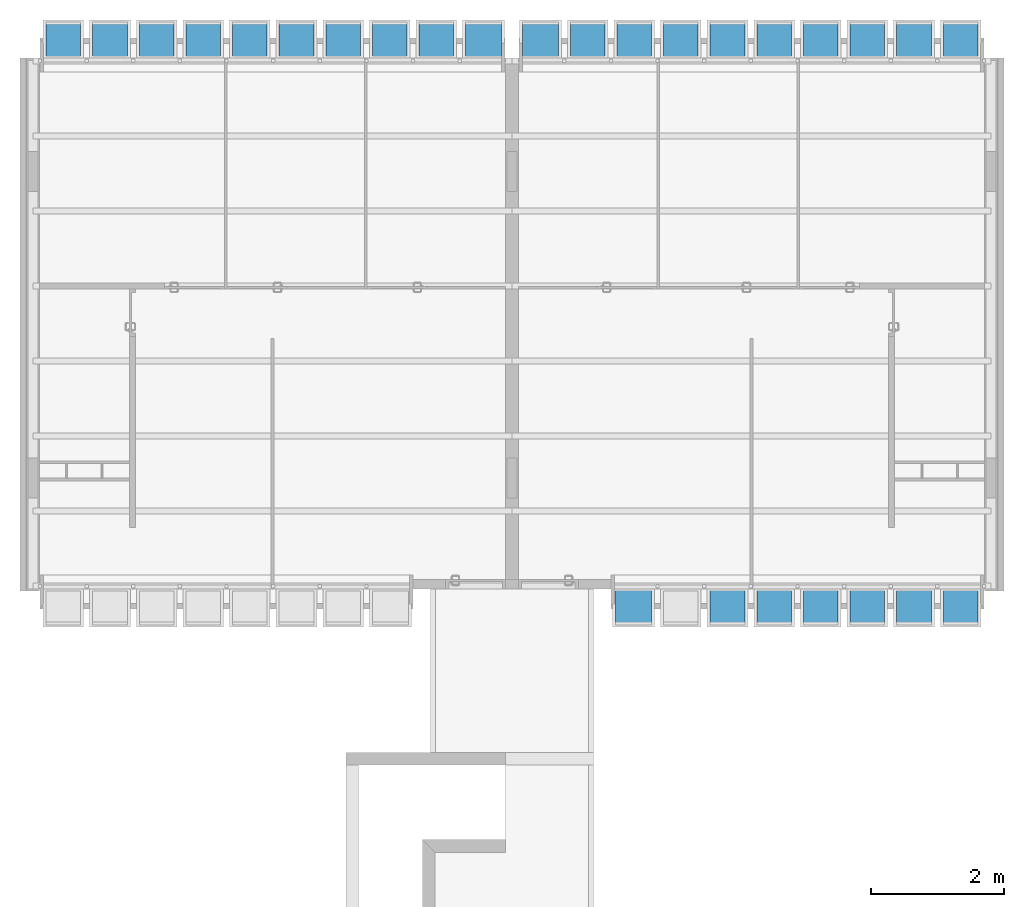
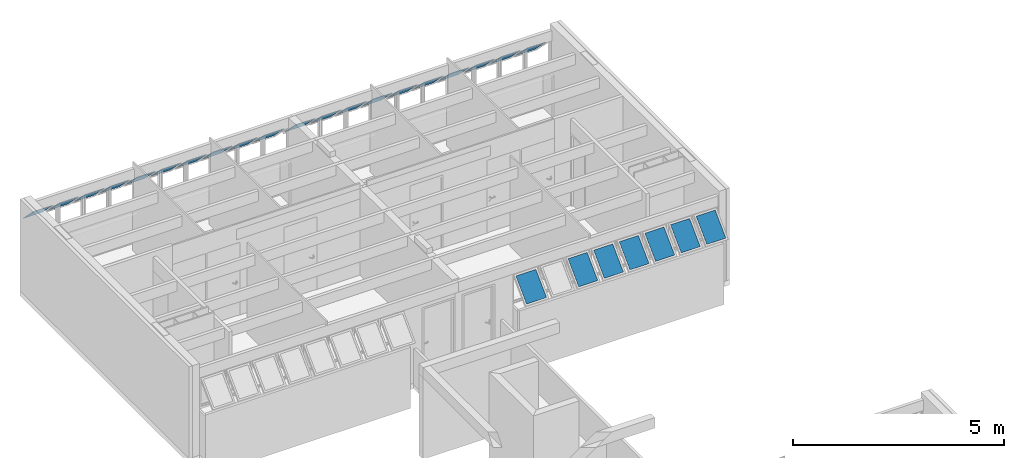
# One storey, part 37 of 37: 27 building element parts, 30 elements without a shape of their own.
"""IFC2X3 building model written with IfcOpenShell, lengths in millimetres."""

from ifc_helpers import new_model, entity, si_unit, converted_unit, derived_unit, money_unit, direction, frame, origin_with_axes, place, context, subcontext, project, spatial, faceted_brep, source, transform, mapped, material, type_object, element, aggregate, save


model = new_model("IFC2X3")

# Units and contexts
model_context = context("Model", 3, precision=0.01, world=origin_with_axes(), true_north=direction((0.0, 1.0)))
body_context = subcontext(model_context, "Body", "Model", "MODEL_VIEW")
ifc_project = project(units=[si_unit("LENGTHUNIT", "METRE", prefix="MILLI"), si_unit("AREAUNIT", "SQUARE_METRE"), si_unit("VOLUMEUNIT", "CUBIC_METRE"), converted_unit("PLANEANGLEUNIT", "DEGREE", entity("IfcPlaneAngleMeasure", 0.0174532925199), si_unit("PLANEANGLEUNIT", "RADIAN"), dimensions=[0, 0, 0, 0, 0, 0, 0]), money_unit("USD"), converted_unit("TIMEUNIT", "Year", entity("IfcTimeMeasure", 31556926.0), si_unit("TIMEUNIT", "SECOND"), dimensions=[0, 0, 1, 0, 0, 0, 0]), si_unit("MASSUNIT", "GRAM", prefix="KILO"), si_unit("THERMODYNAMICTEMPERATUREUNIT", "DEGREE_CELSIUS"), si_unit("LUMINOUSINTENSITYUNIT", "LUMEN"), si_unit("ENERGYUNIT", "JOULE", prefix="MEGA"), derived_unit("THERMALCONDUCTANCEUNIT", [(si_unit("POWERUNIT", "WATT"), 1), (si_unit("LENGTHUNIT", "METRE"), -1), (si_unit("THERMODYNAMICTEMPERATUREUNIT", "KELVIN"), -1)]), derived_unit("SPECIFICHEATCAPACITYUNIT", [(si_unit("ENERGYUNIT", "JOULE"), 1), (si_unit("MASSUNIT", "GRAM", prefix="KILO"), -1), (si_unit("THERMODYNAMICTEMPERATUREUNIT", "KELVIN"), -1)]), derived_unit("MASSDENSITYUNIT", [(si_unit("MASSUNIT", "GRAM", prefix="KILO"), 1), (si_unit("VOLUMEUNIT", "CUBIC_METRE"), -1)])], contexts=[model_context])

# Site, building, storey
site_placement = place(None, origin_with_axes())
site = spatial("IfcSite", under=ifc_project, at=site_placement, Name="Local", CompositionType="ELEMENT")
building_placement = place(site_placement, origin_with_axes())
building = spatial("IfcBuilding", under=site, at=building_placement, Name="Construção", CompositionType="ELEMENT")
storey_placement = place(building_placement, frame((0.0, 0.0, 5300.0), z_axis=(0.0, 0.0, 1.0), x_axis=(1.0, 0.0, 0.0)))
storey = spatial("IfcBuildingStorey", under=building, at=storey_placement, Name="Terceiro Pavimento", CompositionType="ELEMENT", Elevation=5300.0)

# Window, plates, building element parts
window_style = type_object("IfcWindowStyle", Name="Tipo de Parede Cortina", ConstructionType="NOTDEFINED", OperationType="NOTDEFINED", ParameterTakesPrecedence=False, Sizeable=False)
window_1_placement = place(storey_placement, frame((8520.0, 25844.9790225, 1355.02054151), z_axis=(0.0, 0.0, 1.0), x_axis=(1.0, 0.0, 0.0)))
window_1 = element("IfcWindow", 1, at=window_1_placement, inside=storey, type_object=window_style, Name="APTO12-JANELA-001")
plate_type_1 = type_object("IfcPlateType", Name="Painel Principal 690 x 845 x 20", PredefinedType="CURTAIN_PANEL")
plate_1_placement = place(window_1_placement, frame((0.0, 0.0, 422.499945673), z_axis=(0.0, 0.0, 1.0), x_axis=(1.0, 0.0, 0.0)))
plate_1 = element("IfcPlate", 2, at=plate_1_placement, type_object=plate_type_1, Name="APTO12-Painel-Prin-030")
ifc_material = material(Name="Vidro")
shared_shape_1 = source(origin_with_axes(), body_context, "Body", "Brep", [
    faceted_brep([(90.0000036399, 272.749572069, 537.551834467), (609.999997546, 272.749572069, 537.551834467), (609.999997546, 284.063280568, 548.865542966), (90.0000036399, 284.063280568, 548.865542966), (90.0000036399, 778.330843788, 31.9705627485), (609.999997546, 778.330843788, 31.9705627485), (609.999997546, 789.644552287, 43.2842712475), (90.0000036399, 789.644552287, 43.2842712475)], [[[0, 1, 2, 3]], [[0, 4, 5, 1]], [[1, 5, 6, 2]], [[3, 2, 6, 7]], [[4, 0, 3, 7]], [[5, 4, 7, 6]]]),
])
building_element_part_1_placement = place(plate_1_placement, origin_with_axes())
building_element_part_1 = element("IfcBuildingElementPart", 3, at=building_element_part_1_placement, material=ifc_material, Name="Vidro", context=body_context, shape_type="MappedRepresentation", body=[
    mapped(shared_shape_1, transform((350.0, 0.0, -422.499945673), x_axis=(-1.0, 0.0, 0.0), y_axis=(0.0, 0.0, 1.0), z_axis=(0.0, 1.0, 0.0))),
])
aggregate(plate_1, [building_element_part_1])
plate_2_placement = place(window_1_placement, frame((700.0, 0.0, 422.499945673), z_axis=(0.0, 0.0, 1.0), x_axis=(1.0, 0.0, 0.0)))
plate_2 = element("IfcPlate", 4, at=plate_2_placement, type_object=plate_type_1, Name="APTO12-Painel-Prin-020")
building_element_part_2_placement = place(plate_2_placement, origin_with_axes())
building_element_part_2 = element("IfcBuildingElementPart", 5, at=building_element_part_2_placement, material=ifc_material, Name="Vidro", context=body_context, shape_type="MappedRepresentation", body=[
    mapped(shared_shape_1, transform((350.0, 0.0, -422.499945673), x_axis=(-1.0, 0.0, 0.0), y_axis=(0.0, 0.0, 1.0), z_axis=(0.0, 1.0, 0.0))),
])
aggregate(plate_2, [building_element_part_2])
plate_3_placement = place(window_1_placement, frame((1400.0, 0.0, 422.499945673), z_axis=(0.0, 0.0, 1.0), x_axis=(1.0, 0.0, 0.0)))
plate_3 = element("IfcPlate", 6, at=plate_3_placement, type_object=plate_type_1, Name="APTO12-Painel-Prin-029")
building_element_part_3_placement = place(plate_3_placement, origin_with_axes())
building_element_part_3 = element("IfcBuildingElementPart", 7, at=building_element_part_3_placement, material=ifc_material, Name="Vidro", context=body_context, shape_type="MappedRepresentation", body=[
    mapped(shared_shape_1, transform((350.0, 0.0, -422.499945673), x_axis=(-1.0, 0.0, 0.0), y_axis=(0.0, 0.0, 1.0), z_axis=(0.0, 1.0, 0.0))),
])
aggregate(plate_3, [building_element_part_3])
plate_4_placement = place(window_1_placement, frame((3500.0, 0.0, 422.499945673), z_axis=(0.0, 0.0, 1.0), x_axis=(1.0, 0.0, 0.0)))
plate_4 = element("IfcPlate", 8, at=plate_4_placement, type_object=plate_type_1, Name="APTO12-Painel-Prin-013")
building_element_part_4_placement = place(plate_4_placement, origin_with_axes())
building_element_part_4 = element("IfcBuildingElementPart", 9, at=building_element_part_4_placement, material=ifc_material, Name="Vidro", context=body_context, shape_type="MappedRepresentation", body=[
    mapped(shared_shape_1, transform((350.0, 0.0, -422.499945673), x_axis=(-1.0, 0.0, 0.0), y_axis=(0.0, 0.0, 1.0), z_axis=(0.0, 1.0, 0.0))),
])
aggregate(plate_4, [building_element_part_4])
plate_type_2 = type_object("IfcPlateType", Name="Painel Principal 685 x 845 x 20", PredefinedType="CURTAIN_PANEL")
plate_5_placement = place(window_1_placement, frame((-695.000037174, 0.0, 422.499953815), z_axis=(0.0, 0.0, 1.0), x_axis=(1.0, 0.0, 0.0)))
plate_5 = element("IfcPlate", 10, at=plate_5_placement, type_object=plate_type_2, Name="APTO12-Painel-Prin-031")
shared_shape_2 = source(origin_with_axes(), body_context, "Body", "Brep", [
    faceted_brep([(90.0000046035, 272.749581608, 537.551857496), (625.000079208, 272.749581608, 537.551857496), (625.000079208, 284.063290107, 548.865565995), (90.0000046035, 284.063290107, 548.865565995), (90.0000046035, 778.330876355, 31.9705627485), (625.000079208, 778.330876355, 31.9705627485), (625.000079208, 789.644584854, 43.2842712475), (90.0000046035, 789.644584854, 43.2842712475)], [[[0, 1, 2, 3]], [[0, 4, 5, 1]], [[1, 5, 6, 2]], [[3, 2, 6, 7]], [[4, 0, 3, 7]], [[5, 4, 7, 6]]]),
])
building_element_part_5_placement = place(plate_5_placement, origin_with_axes())
building_element_part_5 = element("IfcBuildingElementPart", 11, at=building_element_part_5_placement, material=ifc_material, Name="Vidro", context=body_context, shape_type="MappedRepresentation", body=[
    mapped(shared_shape_2, transform((345.000037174, 0.0, -422.499953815), x_axis=(-1.0, 0.0, 0.0), y_axis=(0.0, 0.0, 1.0), z_axis=(0.0, 1.0, 0.0))),
])
aggregate(plate_5, [building_element_part_5])
plate_6_placement = place(window_1_placement, frame((5600.0, 0.0, 422.499945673), z_axis=(0.0, 0.0, 1.0), x_axis=(1.0, 0.0, 0.0)))
plate_6 = element("IfcPlate", 12, at=plate_6_placement, type_object=plate_type_1, Name="APTO12-Painel-Prin-013")
shared_shape_3 = source(origin_with_axes(), body_context, "Body", "Brep", [
    faceted_brep([(90.0000036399, 272.749572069, 537.551834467), (609.999997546, 272.749572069, 537.551834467), (609.999997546, 284.063280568, 548.865542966), (90.0000036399, 284.063280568, 548.865542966), (90.0000036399, 778.330843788, 31.9705627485), (609.999997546, 778.330843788, 31.9705627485), (609.999997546, 789.644552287, 43.2842712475), (90.0000036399, 789.644552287, 43.2842712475)], [[[0, 1, 2, 3]], [[0, 4, 5, 1]], [[1, 5, 6, 2]], [[3, 2, 6, 7]], [[4, 0, 3, 7]], [[5, 4, 7, 6]]]),
])
building_element_part_6_placement = place(plate_6_placement, origin_with_axes())
building_element_part_6 = element("IfcBuildingElementPart", 13, at=building_element_part_6_placement, material=ifc_material, Name="Vidro", context=body_context, shape_type="MappedRepresentation", body=[
    mapped(shared_shape_3, transform((350.0, 0.0, -422.499945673), x_axis=(-1.0, 0.0, 0.0), y_axis=(0.0, 0.0, 1.0), z_axis=(0.0, 1.0, 0.0))),
])
aggregate(plate_6, [building_element_part_6])
plate_7_placement = place(window_1_placement, frame((4900.0, 0.0, 422.499945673), z_axis=(0.0, 0.0, 1.0), x_axis=(1.0, 0.0, 0.0)))
plate_7 = element("IfcPlate", 14, at=plate_7_placement, type_object=plate_type_1, Name="APTO12-Painel-Prin-013")
building_element_part_7_placement = place(plate_7_placement, origin_with_axes())
building_element_part_7 = element("IfcBuildingElementPart", 15, at=building_element_part_7_placement, material=ifc_material, Name="Vidro", context=body_context, shape_type="MappedRepresentation", body=[
    mapped(shared_shape_3, transform((350.0, 0.0, -422.499945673), x_axis=(-1.0, 0.0, 0.0), y_axis=(0.0, 0.0, 1.0), z_axis=(0.0, 1.0, 0.0))),
])
aggregate(plate_7, [building_element_part_7])
plate_8_placement = place(window_1_placement, frame((2100.0, 0.0, 422.499945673), z_axis=(0.0, 0.0, 1.0), x_axis=(1.0, 0.0, 0.0)))
plate_8 = element("IfcPlate", 16, at=plate_8_placement, type_object=plate_type_1, Name="APTO12-Painel-Prin-025")
building_element_part_8_placement = place(plate_8_placement, origin_with_axes())
building_element_part_8 = element("IfcBuildingElementPart", 17, at=building_element_part_8_placement, material=ifc_material, Name="Vidro", context=body_context, shape_type="MappedRepresentation", body=[
    mapped(shared_shape_3, transform((350.0, 0.0, -422.499945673), x_axis=(-1.0, 0.0, 0.0), y_axis=(0.0, 0.0, 1.0), z_axis=(0.0, 1.0, 0.0))),
])
aggregate(plate_8, [building_element_part_8])
plate_9_placement = place(window_1_placement, frame((2800.0, 0.0, 422.499945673), z_axis=(0.0, 0.0, 1.0), x_axis=(1.0, 0.0, 0.0)))
plate_9 = element("IfcPlate", 18, at=plate_9_placement, type_object=plate_type_1, Name="APTO12-Painel-Prin-013")
shared_shape_4 = source(origin_with_axes(), body_context, "Body", "Brep", [
    faceted_brep([(90.0000036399, 272.749572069, 537.551834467), (609.999997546, 272.749572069, 537.551834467), (609.999997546, 284.063280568, 548.865542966), (90.0000036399, 284.063280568, 548.865542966), (90.0000036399, 778.330843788, 31.9705627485), (609.999997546, 778.330843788, 31.9705627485), (609.999997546, 789.644552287, 43.2842712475), (90.0000036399, 789.644552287, 43.2842712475)], [[[0, 1, 2, 3]], [[0, 4, 5, 1]], [[1, 5, 6, 2]], [[3, 2, 6, 7]], [[4, 0, 3, 7]], [[5, 4, 7, 6]]]),
])
building_element_part_9_placement = place(plate_9_placement, origin_with_axes())
building_element_part_9 = element("IfcBuildingElementPart", 19, at=building_element_part_9_placement, material=ifc_material, Name="Vidro", context=body_context, shape_type="MappedRepresentation", body=[
    mapped(shared_shape_4, transform((350.0, 0.0, -422.499945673), x_axis=(-1.0, 0.0, 0.0), y_axis=(0.0, 0.0, 1.0), z_axis=(0.0, 1.0, 0.0))),
])
aggregate(plate_9, [building_element_part_9])
plate_10_placement = place(window_1_placement, frame((4200.0, 0.0, 422.499945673), z_axis=(0.0, 0.0, 1.0), x_axis=(1.0, 0.0, 0.0)))
plate_10 = element("IfcPlate", 20, at=plate_10_placement, type_object=plate_type_1, Name="APTO12-Painel-Prin-013")
aggregate(window_1, [plate_1, plate_5, plate_6, plate_7, plate_9, plate_8, plate_2, plate_10, plate_3, plate_4])
building_element_part_10_placement = place(plate_10_placement, origin_with_axes())
building_element_part_10 = element("IfcBuildingElementPart", 21, at=building_element_part_10_placement, material=ifc_material, Name="Vidro", context=body_context, shape_type="MappedRepresentation", body=[
    mapped(shared_shape_4, transform((350.0, 0.0, -422.499945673), x_axis=(-1.0, 0.0, 0.0), y_axis=(0.0, 0.0, 1.0), z_axis=(0.0, 1.0, 0.0))),
])
aggregate(plate_10, [building_element_part_10])

window_2_placement = place(storey_placement, frame((6250.0, 25844.9790225, 1355.02054151), z_axis=(0.0, 0.0, 1.0), x_axis=(1.0, 0.0, 0.0)))
window_2 = element("IfcWindow", 22, at=window_2_placement, inside=storey, type_object=window_style, Name="APTO11-JANELA-001")
plate_11_placement = place(window_2_placement, frame((0.0, 0.0, 422.499945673), z_axis=(0.0, 0.0, 1.0), x_axis=(-1.0, 0.0, 0.0)))
plate_11 = element("IfcPlate", 23, at=plate_11_placement, type_object=plate_type_1, Name="APTO11-Painel-Prin-030")
shared_shape_5 = source(origin_with_axes(), body_context, "Body", "Brep", [
    faceted_brep([(-90.0000036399, 272.749572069, 537.551834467), (-90.0000036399, 284.063280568, 548.865542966), (-609.999997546, 284.063280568, 548.865542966), (-609.999997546, 272.749572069, 537.551834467), (-90.0000036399, 778.330843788, 31.9705627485), (-90.0000036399, 789.644552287, 43.2842712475), (-609.999997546, 789.644552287, 43.2842712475), (-609.999997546, 778.330843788, 31.9705627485)], [[[0, 1, 2, 3]], [[4, 5, 1, 0]], [[1, 5, 6, 2]], [[3, 2, 6, 7]], [[0, 3, 7, 4]], [[7, 6, 5, 4]]]),
])
building_element_part_11_placement = place(plate_11_placement, origin_with_axes())
building_element_part_11 = element("IfcBuildingElementPart", 24, at=building_element_part_11_placement, material=ifc_material, Name="Vidro", context=body_context, shape_type="MappedRepresentation", body=[
    mapped(shared_shape_5, transform((350.0, 0.0, -422.499945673), x_axis=(1.0, 0.0, 0.0), y_axis=(0.0, 0.0, 1.0), z_axis=(0.0, -1.0, 0.0))),
])
aggregate(plate_11, [building_element_part_11])
plate_12_placement = place(window_2_placement, frame((-700.0, 0.0, 422.499945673), z_axis=(0.0, 0.0, 1.0), x_axis=(-1.0, 0.0, 0.0)))
plate_12 = element("IfcPlate", 25, at=plate_12_placement, type_object=plate_type_1, Name="APTO11-Painel-Prin-020")
building_element_part_12_placement = place(plate_12_placement, origin_with_axes())
building_element_part_12 = element("IfcBuildingElementPart", 26, at=building_element_part_12_placement, material=ifc_material, Name="Vidro", context=body_context, shape_type="MappedRepresentation", body=[
    mapped(shared_shape_5, transform((350.0, 0.0, -422.499945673), x_axis=(1.0, 0.0, 0.0), y_axis=(0.0, 0.0, 1.0), z_axis=(0.0, -1.0, 0.0))),
])
aggregate(plate_12, [building_element_part_12])
plate_13_placement = place(window_2_placement, frame((-1400.0, 0.0, 422.499945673), z_axis=(0.0, 0.0, 1.0), x_axis=(-1.0, 0.0, 0.0)))
plate_13 = element("IfcPlate", 27, at=plate_13_placement, type_object=plate_type_1, Name="APTO11-Painel-Prin-029")
building_element_part_13_placement = place(plate_13_placement, origin_with_axes())
building_element_part_13 = element("IfcBuildingElementPart", 28, at=building_element_part_13_placement, material=ifc_material, Name="Vidro", context=body_context, shape_type="MappedRepresentation", body=[
    mapped(shared_shape_5, transform((350.0, 0.0, -422.499945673), x_axis=(1.0, 0.0, 0.0), y_axis=(0.0, 0.0, 1.0), z_axis=(0.0, -1.0, 0.0))),
])
aggregate(plate_13, [building_element_part_13])
plate_14_placement = place(window_2_placement, frame((-3500.0, 0.0, 422.499945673), z_axis=(0.0, 0.0, 1.0), x_axis=(-1.0, 0.0, 0.0)))
plate_14 = element("IfcPlate", 29, at=plate_14_placement, type_object=plate_type_1, Name="APTO11-Painel-Prin-013")
building_element_part_14_placement = place(plate_14_placement, origin_with_axes())
building_element_part_14 = element("IfcBuildingElementPart", 30, at=building_element_part_14_placement, material=ifc_material, Name="Vidro", context=body_context, shape_type="MappedRepresentation", body=[
    mapped(shared_shape_5, transform((350.0, 0.0, -422.499945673), x_axis=(1.0, 0.0, 0.0), y_axis=(0.0, 0.0, 1.0), z_axis=(0.0, -1.0, 0.0))),
])
aggregate(plate_14, [building_element_part_14])

# Window, plate, building element part
window_3_placement = place(storey_placement, frame((12020.0, 17910.0, 1355.00007107), z_axis=(0.0, 0.0, 1.0), x_axis=(1.0, 0.0, 0.0)))
window_3 = element("IfcWindow", 31, at=window_3_placement, inside=storey, type_object=window_style, Name="APTO12-JANELA-000")
plate_15_placement = place(window_3_placement, frame((0.0, 0.0, 422.499964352), z_axis=(0.0, 0.0, 1.0), x_axis=(1.0, 0.0, 0.0)))
plate_15 = element("IfcPlate", 32, at=plate_15_placement, type_object=plate_type_1, Name="APTO12-Painel-Prin-013")
building_element_part_15_placement = place(plate_15_placement, origin_with_axes())
building_element_part_15 = element("IfcBuildingElementPart", 33, at=building_element_part_15_placement, material=ifc_material, Name="Vidro", context=body_context, shape_type="MappedRepresentation", body=[
    mapped(shared_shape_5, transform((350.0, 0.0, -422.499964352), x_axis=(1.0, 0.0, 0.0), y_axis=(0.0, 0.0, 1.0), z_axis=(0.0, -1.0, 0.0))),
])
aggregate(plate_15, [building_element_part_15])

# Plate, building element part
plate_16_placement = place(window_2_placement, frame((-5600.0, 0.0, 422.499945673), z_axis=(0.0, 0.0, 1.0), x_axis=(-1.0, 0.0, 0.0)))
plate_16 = element("IfcPlate", 34, at=plate_16_placement, type_object=plate_type_1, Name="APTO11-Painel-Prin-013")
shared_shape_6 = source(origin_with_axes(), body_context, "Body", "Brep", [
    faceted_brep([(-90.0000036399, 272.749572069, 537.551834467), (-90.0000036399, 284.063280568, 548.865542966), (-609.999997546, 284.063280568, 548.865542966), (-609.999997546, 272.749572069, 537.551834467), (-90.0000036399, 778.330843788, 31.9705627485), (-90.0000036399, 789.644552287, 43.2842712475), (-609.999997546, 789.644552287, 43.2842712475), (-609.999997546, 778.330843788, 31.9705627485)], [[[0, 1, 2, 3]], [[4, 5, 1, 0]], [[1, 5, 6, 2]], [[3, 2, 6, 7]], [[0, 3, 7, 4]], [[7, 6, 5, 4]]]),
])
building_element_part_16_placement = place(plate_16_placement, origin_with_axes())
building_element_part_16 = element("IfcBuildingElementPart", 35, at=building_element_part_16_placement, material=ifc_material, Name="Vidro", context=body_context, shape_type="MappedRepresentation", body=[
    mapped(shared_shape_6, transform((350.0, 0.0, -422.499945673), x_axis=(1.0, 0.0, 0.0), y_axis=(0.0, 0.0, 1.0), z_axis=(0.0, -1.0, 0.0))),
])
aggregate(plate_16, [building_element_part_16])

plate_17_placement = place(window_2_placement, frame((-4900.0, 0.0, 422.499945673), z_axis=(0.0, 0.0, 1.0), x_axis=(-1.0, 0.0, 0.0)))
plate_17 = element("IfcPlate", 36, at=plate_17_placement, type_object=plate_type_1, Name="APTO11-Painel-Prin-013")
building_element_part_17_placement = place(plate_17_placement, origin_with_axes())
building_element_part_17 = element("IfcBuildingElementPart", 37, at=building_element_part_17_placement, material=ifc_material, Name="Vidro", context=body_context, shape_type="MappedRepresentation", body=[
    mapped(shared_shape_6, transform((350.0, 0.0, -422.499945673), x_axis=(1.0, 0.0, 0.0), y_axis=(0.0, 0.0, 1.0), z_axis=(0.0, -1.0, 0.0))),
])
aggregate(plate_17, [building_element_part_17])

plate_18_placement = place(window_2_placement, frame((-2100.0, 0.0, 422.499945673), z_axis=(0.0, 0.0, 1.0), x_axis=(-1.0, 0.0, 0.0)))
plate_18 = element("IfcPlate", 38, at=plate_18_placement, type_object=plate_type_1, Name="APTO11-Painel-Prin-025")
building_element_part_18_placement = place(plate_18_placement, origin_with_axes())
building_element_part_18 = element("IfcBuildingElementPart", 39, at=building_element_part_18_placement, material=ifc_material, Name="Vidro", context=body_context, shape_type="MappedRepresentation", body=[
    mapped(shared_shape_6, transform((350.0, 0.0, -422.499945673), x_axis=(1.0, 0.0, 0.0), y_axis=(0.0, 0.0, 1.0), z_axis=(0.0, -1.0, 0.0))),
])
aggregate(plate_18, [building_element_part_18])

plate_19_placement = place(window_3_placement, frame((2100.0, 0.0, 422.499998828), z_axis=(0.0, 0.0, 1.0), x_axis=(1.0, 0.0, 0.0)))
plate_19 = element("IfcPlate", 40, at=plate_19_placement, type_object=plate_type_1, Name="APTO12-Painel-Prin-013")
building_element_part_19_placement = place(plate_19_placement, origin_with_axes())
building_element_part_19 = element("IfcBuildingElementPart", 41, at=building_element_part_19_placement, material=ifc_material, Name="Vidro", context=body_context, shape_type="MappedRepresentation", body=[
    mapped(shared_shape_6, transform((350.0, 0.0, -422.499998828), x_axis=(1.0, 0.0, 0.0), y_axis=(0.0, 0.0, 1.0), z_axis=(0.0, -1.0, 0.0))),
])
aggregate(plate_19, [building_element_part_19])

plate_20_placement = place(window_3_placement, frame((1400.0, 0.0, 422.499964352), z_axis=(0.0, 0.0, 1.0), x_axis=(1.0, 0.0, 0.0)))
plate_20 = element("IfcPlate", 42, at=plate_20_placement, type_object=plate_type_1, Name="APTO12-Painel-Prin-013")
building_element_part_20_placement = place(plate_20_placement, origin_with_axes())
building_element_part_20 = element("IfcBuildingElementPart", 43, at=building_element_part_20_placement, material=ifc_material, Name="Vidro", context=body_context, shape_type="MappedRepresentation", body=[
    mapped(shared_shape_6, transform((350.0, 0.0, -422.499964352), x_axis=(1.0, 0.0, 0.0), y_axis=(0.0, 0.0, 1.0), z_axis=(0.0, -1.0, 0.0))),
])
aggregate(plate_20, [building_element_part_20])

plate_21_placement = place(window_3_placement, frame((-1400.0, 0.0, 422.499964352), z_axis=(0.0, 0.0, 1.0), x_axis=(1.0, 0.0, 0.0)))
plate_21 = element("IfcPlate", 44, at=plate_21_placement, type_object=plate_type_1, Name="APTO12-Painel-Prin-025")
building_element_part_21_placement = place(plate_21_placement, origin_with_axes())
building_element_part_21 = element("IfcBuildingElementPart", 45, at=building_element_part_21_placement, material=ifc_material, Name="Vidro", context=body_context, shape_type="MappedRepresentation", body=[
    mapped(shared_shape_6, transform((350.0, 0.0, -422.499964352), x_axis=(1.0, 0.0, 0.0), y_axis=(0.0, 0.0, 1.0), z_axis=(0.0, -1.0, 0.0))),
])
aggregate(plate_21, [building_element_part_21])

plate_22_placement = place(window_2_placement, frame((-2800.0, 0.0, 422.499945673), z_axis=(0.0, 0.0, 1.0), x_axis=(-1.0, 0.0, 0.0)))
plate_22 = element("IfcPlate", 46, at=plate_22_placement, type_object=plate_type_1, Name="APTO11-Painel-Prin-013")
shared_shape_7 = source(origin_with_axes(), body_context, "Body", "Brep", [
    faceted_brep([(-90.0000036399, 272.749572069, 537.551834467), (-90.0000036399, 284.063280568, 548.865542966), (-609.999997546, 284.063280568, 548.865542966), (-609.999997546, 272.749572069, 537.551834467), (-90.0000036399, 778.330843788, 31.9705627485), (-90.0000036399, 789.644552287, 43.2842712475), (-609.999997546, 789.644552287, 43.2842712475), (-609.999997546, 778.330843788, 31.9705627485)], [[[0, 1, 2, 3]], [[4, 5, 1, 0]], [[1, 5, 6, 2]], [[3, 2, 6, 7]], [[0, 3, 7, 4]], [[7, 6, 5, 4]]]),
])
building_element_part_22_placement = place(plate_22_placement, origin_with_axes())
building_element_part_22 = element("IfcBuildingElementPart", 47, at=building_element_part_22_placement, material=ifc_material, Name="Vidro", context=body_context, shape_type="MappedRepresentation", body=[
    mapped(shared_shape_7, transform((350.0, 0.0, -422.499945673), x_axis=(1.0, 0.0, 0.0), y_axis=(0.0, 0.0, 1.0), z_axis=(0.0, -1.0, 0.0))),
])
aggregate(plate_22, [building_element_part_22])

plate_23_placement = place(window_2_placement, frame((-4200.0, 0.0, 422.499945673), z_axis=(0.0, 0.0, 1.0), x_axis=(-1.0, 0.0, 0.0)))
plate_23 = element("IfcPlate", 48, at=plate_23_placement, type_object=plate_type_1, Name="APTO11-Painel-Prin-013")
building_element_part_23_placement = place(plate_23_placement, origin_with_axes())
building_element_part_23 = element("IfcBuildingElementPart", 49, at=building_element_part_23_placement, material=ifc_material, Name="Vidro", context=body_context, shape_type="MappedRepresentation", body=[
    mapped(shared_shape_7, transform((350.0, 0.0, -422.499945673), x_axis=(1.0, 0.0, 0.0), y_axis=(0.0, 0.0, 1.0), z_axis=(0.0, -1.0, 0.0))),
])
aggregate(plate_23, [building_element_part_23])

plate_24_placement = place(window_3_placement, frame((-700.0, 0.0, 422.499964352), z_axis=(0.0, 0.0, 1.0), x_axis=(1.0, 0.0, 0.0)))
plate_24 = element("IfcPlate", 50, at=plate_24_placement, type_object=plate_type_1, Name="APTO12-Painel-Prin-013")
building_element_part_24_placement = place(plate_24_placement, origin_with_axes())
building_element_part_24 = element("IfcBuildingElementPart", 51, at=building_element_part_24_placement, material=ifc_material, Name="Vidro", context=body_context, shape_type="MappedRepresentation", body=[
    mapped(shared_shape_7, transform((350.0, 0.0, -422.499964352), x_axis=(1.0, 0.0, 0.0), y_axis=(0.0, 0.0, 1.0), z_axis=(0.0, -1.0, 0.0))),
])
aggregate(plate_24, [building_element_part_24])

plate_25_placement = place(window_3_placement, frame((700.0, 0.0, 422.499964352), z_axis=(0.0, 0.0, 1.0), x_axis=(1.0, 0.0, 0.0)))
plate_25 = element("IfcPlate", 52, at=plate_25_placement, type_object=plate_type_1, Name="APTO12-Painel-Prin-013")
building_element_part_25_placement = place(plate_25_placement, origin_with_axes())
building_element_part_25 = element("IfcBuildingElementPart", 53, at=building_element_part_25_placement, material=ifc_material, Name="Vidro", context=body_context, shape_type="MappedRepresentation", body=[
    mapped(shared_shape_7, transform((350.0, 0.0, -422.499964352), x_axis=(1.0, 0.0, 0.0), y_axis=(0.0, 0.0, 1.0), z_axis=(0.0, -1.0, 0.0))),
])
aggregate(plate_25, [building_element_part_25])

# Plate
plate_type_3 = type_object("IfcPlateType", Name="Painel Principal 695 x 845 x 20", PredefinedType="CURTAIN_PANEL")
plate_26_placement = place(window_3_placement, frame((-2800.0, 0.0, 422.499986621), z_axis=(0.0, 0.0, 1.0), x_axis=(1.0, 0.0, 0.0)))
plate_26 = element("IfcPlate", 54, at=plate_26_placement, type_object=plate_type_3, Name="APTO12-Painel-Prin-020")

aggregate(window_3, [plate_15, plate_19, plate_20, plate_24, plate_21, plate_26, plate_25])

# Building element part
shared_shape_8 = source(origin_with_axes(), body_context, "Body", "Brep", [
    faceted_brep([(-90.0000062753, 272.749598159, 537.551897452), (-90.0000062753, 284.063306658, 548.865605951), (-634.999999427, 284.063306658, 548.865605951), (-634.999999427, 272.749598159, 537.551897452), (-90.0000062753, 778.330932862, 31.9705627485), (-90.0000062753, 789.644641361, 43.2842712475), (-634.999999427, 789.644641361, 43.2842712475), (-634.999999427, 778.330932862, 31.9705627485)], [[[0, 1, 2, 3]], [[4, 5, 1, 0]], [[1, 5, 6, 2]], [[3, 2, 6, 7]], [[0, 3, 7, 4]], [[7, 6, 5, 4]]]),
])
building_element_part_26_placement = place(plate_26_placement, origin_with_axes())
building_element_part_26 = element("IfcBuildingElementPart", 55, at=building_element_part_26_placement, material=ifc_material, Name="Vidro", context=body_context, shape_type="MappedRepresentation", body=[
    mapped(shared_shape_8, transform((350.0, 0.0, -422.499986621), x_axis=(1.0, 0.0, 0.0), y_axis=(0.0, 0.0, 1.0), z_axis=(0.0, -1.0, 0.0))),
])

aggregate(plate_26, [building_element_part_26])

# Plate
plate_27_placement = place(window_2_placement, frame((695.000037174, 0.0, 422.499953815), z_axis=(0.0, 0.0, 1.0), x_axis=(-1.0, 0.0, 0.0)))
plate_27 = element("IfcPlate", 56, at=plate_27_placement, type_object=plate_type_2, Name="APTO11-Painel-Prin-031")

aggregate(window_2, [plate_11, plate_27, plate_16, plate_17, plate_22, plate_18, plate_12, plate_23, plate_13, plate_14])

# Building element part
shared_shape_9 = source(origin_with_axes(), body_context, "Body", "Brep", [
    faceted_brep([(-90.0000046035, 272.749581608, 537.551857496), (-90.0000046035, 284.063290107, 548.865565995), (-625.000079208, 284.063290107, 548.865565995), (-625.000079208, 272.749581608, 537.551857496), (-90.0000046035, 778.330876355, 31.9705627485), (-90.0000046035, 789.644584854, 43.2842712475), (-625.000079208, 789.644584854, 43.2842712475), (-625.000079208, 778.330876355, 31.9705627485)], [[[0, 1, 2, 3]], [[4, 5, 1, 0]], [[1, 5, 6, 2]], [[3, 2, 6, 7]], [[0, 3, 7, 4]], [[7, 6, 5, 4]]]),
])
building_element_part_27_placement = place(plate_27_placement, origin_with_axes())
building_element_part_27 = element("IfcBuildingElementPart", 57, at=building_element_part_27_placement, material=ifc_material, Name="Vidro", context=body_context, shape_type="MappedRepresentation", body=[
    mapped(shared_shape_9, transform((345.000037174, 0.0, -422.499953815), x_axis=(1.0, 0.0, 0.0), y_axis=(0.0, 0.0, 1.0), z_axis=(0.0, -1.0, 0.0))),
])

aggregate(plate_27, [building_element_part_27])

save(model, "model.ifc")
